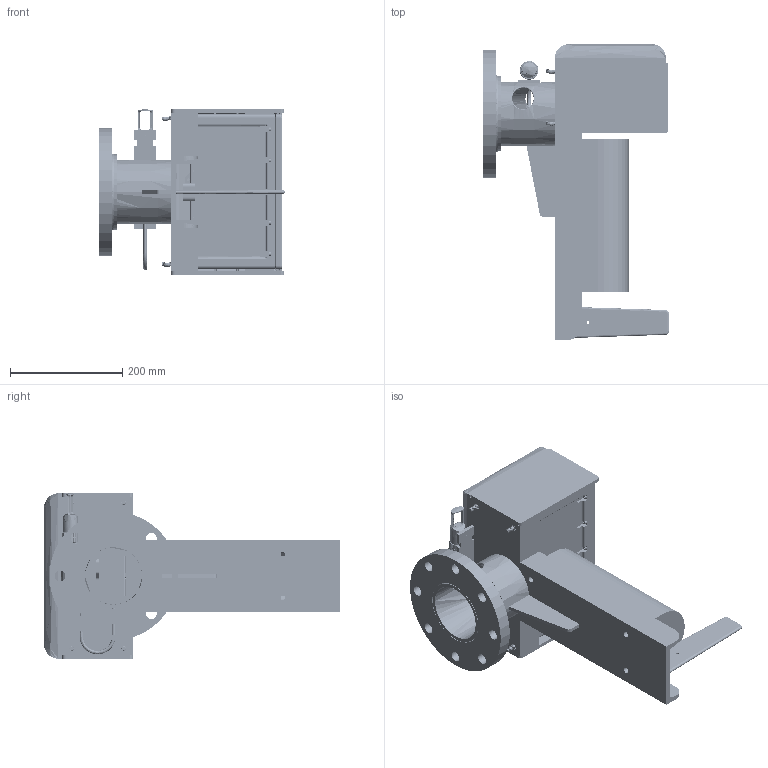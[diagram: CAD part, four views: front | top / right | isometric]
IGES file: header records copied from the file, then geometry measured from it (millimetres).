
Start section: SolidWorks IGES file using analytic representation for surfaces
Global section: file name: C:\_R2Sonic\Library\Hans\CadModels\Mounted Shell Models\2022Mount\2022Mount.IGS; native system: SolidWorks 2018; preprocessor: SolidWorks 2018; author: hans; date: 191028.152715; units: inch
Bounding box: 332.11 x 527.18 x 295.91 mm (x, y, z)
Surface area: 1314833.6 mm2 (no closed solid volume)
Topology: 0 solids, 0 shells, 4779 faces, 50160 edges, 50140 vertices
Faces by surface type: bspline 2931, revolution 1848
